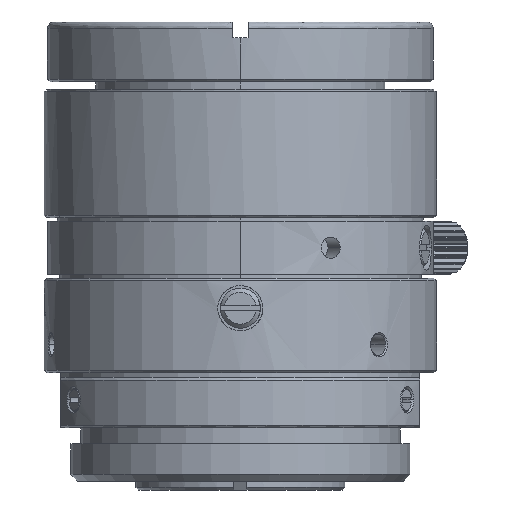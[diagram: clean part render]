
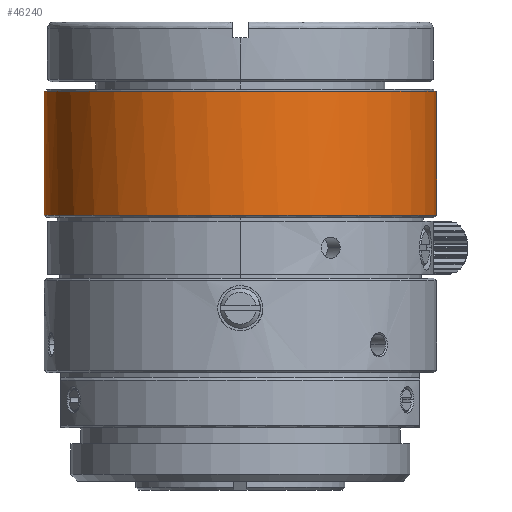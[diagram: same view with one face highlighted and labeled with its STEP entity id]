
A CAD part, front view. The second image highlights one B-rep face of the part: STEP entity #46240.
In plain terms, the highlighted cylindrical face has radius 14.75 mm (diameter 29.5 mm), a partial arc.
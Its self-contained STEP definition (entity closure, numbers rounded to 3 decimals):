
#1564 = ORIENTED_EDGE ( 'NONE', *, *, #52576, .F. ) ;
#1840 = CARTESIAN_POINT ( 'NONE',  ( -14.75, 0., 19.928 ) ) ;
#2370 = DIRECTION ( 'NONE',  ( 0., 0., 1. ) ) ;
#3636 = CIRCLE ( 'NONE', #27367, 14.75 ) ;
#4035 = EDGE_CURVE ( 'NONE', #20859, #23487, #30272, .T. ) ;
#7973 = DIRECTION ( 'NONE',  ( 0., 0., 1. ) ) ;
#9982 = CIRCLE ( 'NONE', #52537, 14.75 ) ;
#10890 = VECTOR ( 'NONE', #2370, 1000. ) ;
#12920 = VERTEX_POINT ( 'NONE', #45325 ) ;
#14353 = ORIENTED_EDGE ( 'NONE', *, *, #4035, .F. ) ;
#18988 = DIRECTION ( 'NONE',  ( 1., 0., 0. ) ) ;
#19170 = AXIS2_PLACEMENT_3D ( 'NONE', #59099, #7973, #30906 ) ;
#19600 = DIRECTION ( 'NONE',  ( -0.927, -0.375, 0. ) ) ;
#20793 = EDGE_CURVE ( 'NONE', #20859, #46032, #3636, .T. ) ;
#20859 = VERTEX_POINT ( 'NONE', #33506 ) ;
#23487 = VERTEX_POINT ( 'NONE', #1840 ) ;
#23777 = CIRCLE ( 'NONE', #37612, 14.75 ) ;
#24953 = ORIENTED_EDGE ( 'NONE', *, *, #30092, .T. ) ;
#25598 = CARTESIAN_POINT ( 'NONE',  ( -14.75, 0., 0. ) ) ;
#27354 = DIRECTION ( 'NONE',  ( 0., 0., 1. ) ) ;
#27367 = AXIS2_PLACEMENT_3D ( 'NONE', #43422, #57070, #19600 ) ;
#29323 = CARTESIAN_POINT ( 'NONE',  ( 14.75, 0., 0. ) ) ;
#30092 = EDGE_CURVE ( 'NONE', #12920, #39190, #44166, .T. ) ;
#30272 = LINE ( 'NONE', #25598, #10890 ) ;
#30906 = DIRECTION ( 'NONE',  ( 1., 0., 0. ) ) ;
#33506 = CARTESIAN_POINT ( 'NONE',  ( -14.75, 0., 10.628 ) ) ;
#35555 = FACE_OUTER_BOUND ( 'NONE', #47240, .T. ) ;
#37609 = DIRECTION ( 'NONE',  ( 0., 0., 1. ) ) ;
#37612 = AXIS2_PLACEMENT_3D ( 'NONE', #51504, #27354, #18988 ) ;
#38810 = CARTESIAN_POINT ( 'NONE',  ( 14.75, 0., 19.928 ) ) ;
#39190 = VERTEX_POINT ( 'NONE', #38810 ) ;
#39221 = DIRECTION ( 'NONE',  ( 0., 0., 1. ) ) ;
#39877 = CYLINDRICAL_SURFACE ( 'NONE', #19170, 14.75 ) ;
#43099 = CARTESIAN_POINT ( 'NONE',  ( -13.672, -5.535, 10.628 ) ) ;
#43422 = CARTESIAN_POINT ( 'NONE',  ( 0., 0., 10.628 ) ) ;
#44166 = LINE ( 'NONE', #29323, #46070 ) ;
#45325 = CARTESIAN_POINT ( 'NONE',  ( 14.75, 0., 10.628 ) ) ;
#46032 = VERTEX_POINT ( 'NONE', #43099 ) ;
#46070 = VECTOR ( 'NONE', #39221, 1000. ) ;
#46240 = ADVANCED_FACE ( 'NONE', ( #35555 ), #39877, .T. ) ;
#47204 = ORIENTED_EDGE ( 'NONE', *, *, #51096, .T. ) ;
#47240 = EDGE_LOOP ( 'NONE', ( #14353, #52909, #47204, #24953, #1564 ) ) ;
#51096 = EDGE_CURVE ( 'NONE', #46032, #12920, #9982, .T. ) ;
#51504 = CARTESIAN_POINT ( 'NONE',  ( 0., 0., 19.928 ) ) ;
#52187 = DIRECTION ( 'NONE',  ( -0.927, -0.375, 0. ) ) ;
#52484 = CARTESIAN_POINT ( 'NONE',  ( 0., 0., 10.628 ) ) ;
#52537 = AXIS2_PLACEMENT_3D ( 'NONE', #52484, #37609, #52187 ) ;
#52576 = EDGE_CURVE ( 'NONE', #23487, #39190, #23777, .T. ) ;
#52909 = ORIENTED_EDGE ( 'NONE', *, *, #20793, .T. ) ;
#57070 = DIRECTION ( 'NONE',  ( 0., 0., 1. ) ) ;
#59099 = CARTESIAN_POINT ( 'NONE',  ( 0., 0., 0. ) ) ;
